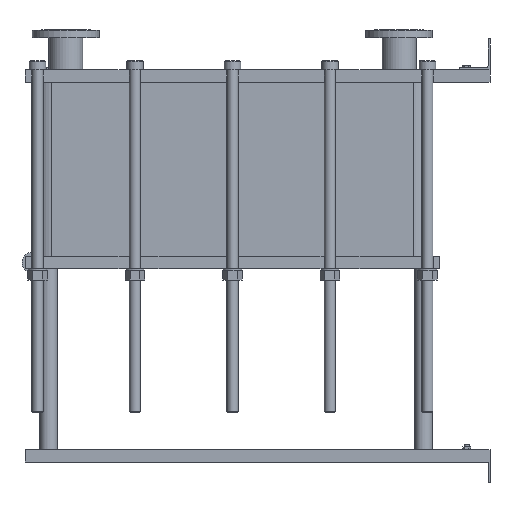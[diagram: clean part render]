
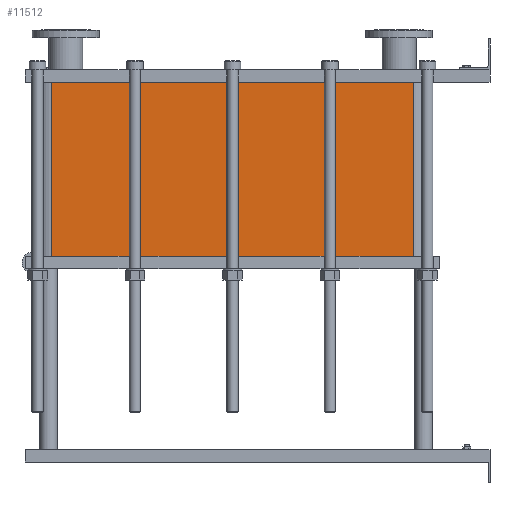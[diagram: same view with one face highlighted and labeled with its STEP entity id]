
A CAD part, left-side view. The second image highlights one B-rep face of the part: STEP entity #11512.
In plain terms, the highlighted planar face has unit normal (-1, 0, 0).
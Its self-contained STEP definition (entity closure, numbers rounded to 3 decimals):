
#1129=LINE('',#23232,#2102);
#1130=LINE('',#23236,#2103);
#1131=LINE('',#23238,#2104);
#1132=LINE('',#23239,#2105);
#2102=VECTOR('',#15887,10.);
#2103=VECTOR('',#15892,10.);
#2104=VECTOR('',#15893,10.);
#2105=VECTOR('',#15894,10.);
#3267=FACE_OUTER_BOUND('',#4093,.T.);
#4093=EDGE_LOOP('',(#10103,#10104,#10105,#10106));
#5642=VERTEX_POINT('',#23229);
#5643=VERTEX_POINT('',#23231);
#5644=VERTEX_POINT('',#23235);
#5645=VERTEX_POINT('',#23237);
#7159=EDGE_CURVE('',#5643,#5642,#1129,.T.);
#7161=EDGE_CURVE('',#5642,#5644,#1130,.T.);
#7162=EDGE_CURVE('',#5645,#5644,#1131,.T.);
#7163=EDGE_CURVE('',#5645,#5643,#1132,.T.);
#10103=ORIENTED_EDGE('',*,*,#7161,.T.);
#10104=ORIENTED_EDGE('',*,*,#7162,.F.);
#10105=ORIENTED_EDGE('',*,*,#7163,.T.);
#10106=ORIENTED_EDGE('',*,*,#7159,.T.);
#10857=PLANE('',#12751);
#11512=ADVANCED_FACE('',(#3267),#10857,.T.);
#12751=AXIS2_PLACEMENT_3D('',#23234,#15890,#15891);
#15887=DIRECTION('',(0.,0.,-1.));
#15890=DIRECTION('center_axis',(-1.,0.,0.));
#15891=DIRECTION('ref_axis',(0.,1.,0.));
#15892=DIRECTION('',(0.,-1.,0.));
#15893=DIRECTION('',(0.,0.,-1.));
#15894=DIRECTION('',(0.,1.,0.));
#23229=CARTESIAN_POINT('',(-200.,1414.,-562.35));
#23231=CARTESIAN_POINT('',(-200.,1414.,0.));
#23232=CARTESIAN_POINT('',(-200.,1414.,0.));
#23234=CARTESIAN_POINT('Origin',(-200.,248.,0.));
#23235=CARTESIAN_POINT('',(-200.,248.,-562.35));
#23236=CARTESIAN_POINT('',(-200.,539.5,-562.35));
#23237=CARTESIAN_POINT('',(-200.,248.,0.));
#23238=CARTESIAN_POINT('',(-200.,248.,0.));
#23239=CARTESIAN_POINT('',(-200.,248.,0.));
